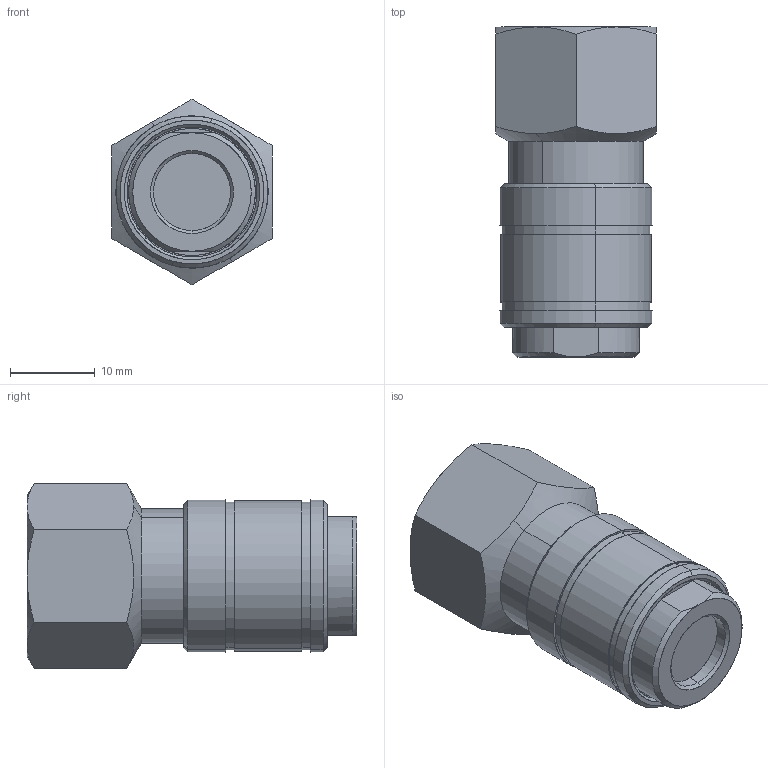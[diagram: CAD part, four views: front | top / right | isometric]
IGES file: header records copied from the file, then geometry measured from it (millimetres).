
Start section: SolidWorks IGES file using analytic representation for surfaces
Global section: file name: K:\Disegni Esecutivi\Serie 100-200\ASSIEMI\112\112_iges\0011200003A.IGS; native system: SolidWorks 2008; preprocessor: SolidWorks 2008; author: cad05; date: 090225.165734; units: millimetre
Bounding box: 19 x 39 x 21.94 mm (x, y, z)
Surface area: 3264.5 mm2 (no closed solid volume)
Topology: 0 solids, 0 shells, 66 faces, 1120 edges, 1120 vertices
Faces by surface type: revolution 44, bspline 22
